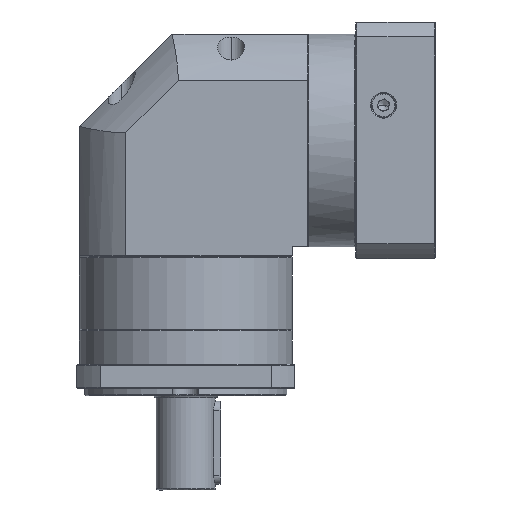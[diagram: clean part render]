
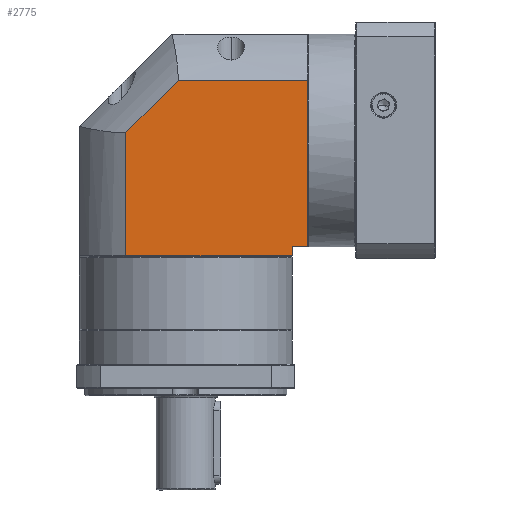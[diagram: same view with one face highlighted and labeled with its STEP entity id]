
A CAD part, front view. The second image highlights one B-rep face of the part: STEP entity #2775.
In plain terms, the highlighted planar face has unit normal (0, -1, 0).
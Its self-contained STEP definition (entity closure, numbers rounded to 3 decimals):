
#2775 = ADVANCED_FACE ( 'NONE', ( #9039 ), #27399, .F. ) ;
#3076 = EDGE_CURVE ( 'NONE', #114624, #77906, #111020, .T. ) ;
#6028 = DIRECTION ( 'NONE',  ( 0., 0., -1. ) ) ;
#6070 = ORIENTED_EDGE ( 'NONE', *, *, #41317, .F. ) ;
#9039 = FACE_OUTER_BOUND ( 'NONE', #28359, .T. ) ;
#12618 = DIRECTION ( 'NONE',  ( 0.707, 0., 0.707 ) ) ;
#13341 = ORIENTED_EDGE ( 'NONE', *, *, #3076, .F. ) ;
#16115 = CARTESIAN_POINT ( 'NONE',  ( 85.413, 1.133, -60.127 ) ) ;
#16437 = VERTEX_POINT ( 'NONE', #38316 ) ;
#18762 = LINE ( 'NONE', #104324, #39780 ) ;
#20772 = LINE ( 'NONE', #37599, #134255 ) ;
#23882 = EDGE_CURVE ( 'NONE', #68728, #112901, #33133, .T. ) ;
#24888 = VECTOR ( 'NONE', #6028, 1000. ) ;
#26370 = VERTEX_POINT ( 'NONE', #57671 ) ;
#27399 = PLANE ( 'NONE',  #114768 ) ;
#27847 = CARTESIAN_POINT ( 'NONE',  ( -29.587, 1.133, -71.627 ) ) ;
#28359 = EDGE_LOOP ( 'NONE', ( #91773, #30259, #6070, #64517, #113718, #13341, #75651 ) ) ;
#28366 = VECTOR ( 'NONE', #77517, 1000. ) ;
#30259 = ORIENTED_EDGE ( 'NONE', *, *, #104366, .F. ) ;
#33133 = LINE ( 'NONE', #58364, #71980 ) ;
#33200 = EDGE_CURVE ( 'NONE', #35423, #26370, #70321, .T. ) ;
#35423 = VERTEX_POINT ( 'NONE', #42018 ) ;
#37599 = CARTESIAN_POINT ( 'NONE',  ( -29.587, 1.133, -65.127 ) ) ;
#38316 = CARTESIAN_POINT ( 'NONE',  ( 93.813, 1.133, -60.127 ) ) ;
#39780 = VECTOR ( 'NONE', #42290, 1000. ) ;
#40551 = DIRECTION ( 'NONE',  ( 1., 0., 0. ) ) ;
#41317 = EDGE_CURVE ( 'NONE', #26370, #16437, #78302, .T. ) ;
#42018 = CARTESIAN_POINT ( 'NONE',  ( 23.851, 1.133, 29.773 ) ) ;
#42290 = DIRECTION ( 'NONE',  ( -1., 0., 0. ) ) ;
#45535 = CARTESIAN_POINT ( 'NONE',  ( 85.413, 1.133, -65.127 ) ) ;
#47748 = CARTESIAN_POINT ( 'NONE',  ( -4.487, 1.133, -65.127 ) ) ;
#57671 = CARTESIAN_POINT ( 'NONE',  ( 93.813, 1.133, 29.773 ) ) ;
#58364 = CARTESIAN_POINT ( 'NONE',  ( 85.413, 1.133, -71.627 ) ) ;
#64517 = ORIENTED_EDGE ( 'NONE', *, *, #33200, .F. ) ;
#68728 = VERTEX_POINT ( 'NONE', #16115 ) ;
#69525 = DIRECTION ( 'NONE',  ( 1., 0., 0. ) ) ;
#70321 = LINE ( 'NONE', #101659, #83260 ) ;
#71980 = VECTOR ( 'NONE', #88723, 1000. ) ;
#75651 = ORIENTED_EDGE ( 'NONE', *, *, #132908, .F. ) ;
#77517 = DIRECTION ( 'NONE',  ( 0., 0., 1. ) ) ;
#77906 = VERTEX_POINT ( 'NONE', #85611 ) ;
#78302 = LINE ( 'NONE', #129701, #24888 ) ;
#81276 = EDGE_CURVE ( 'NONE', #77906, #35423, #87259, .T. ) ;
#83260 = VECTOR ( 'NONE', #40551, 1000. ) ;
#83971 = VECTOR ( 'NONE', #12618, 1000. ) ;
#85611 = CARTESIAN_POINT ( 'NONE',  ( -4.487, 1.133, 1.435 ) ) ;
#87259 = LINE ( 'NONE', #95912, #83971 ) ;
#88723 = DIRECTION ( 'NONE',  ( 0., 0., -1. ) ) ;
#90776 = DIRECTION ( 'NONE',  ( 0., 1., 0. ) ) ;
#91773 = ORIENTED_EDGE ( 'NONE', *, *, #23882, .F. ) ;
#95912 = CARTESIAN_POINT ( 'NONE',  ( -4.487, 1.133, 1.435 ) ) ;
#101659 = CARTESIAN_POINT ( 'NONE',  ( -29.587, 1.133, 29.773 ) ) ;
#103844 = CARTESIAN_POINT ( 'NONE',  ( -4.487, 1.133, -71.627 ) ) ;
#104324 = CARTESIAN_POINT ( 'NONE',  ( -29.587, 1.133, -60.127 ) ) ;
#104366 = EDGE_CURVE ( 'NONE', #16437, #68728, #18762, .T. ) ;
#111020 = LINE ( 'NONE', #103844, #28366 ) ;
#112901 = VERTEX_POINT ( 'NONE', #45535 ) ;
#113718 = ORIENTED_EDGE ( 'NONE', *, *, #81276, .F. ) ;
#114624 = VERTEX_POINT ( 'NONE', #47748 ) ;
#114768 = AXIS2_PLACEMENT_3D ( 'NONE', #27847, #90776, #69525 ) ;
#129701 = CARTESIAN_POINT ( 'NONE',  ( 93.813, 1.133, -71.627 ) ) ;
#131835 = DIRECTION ( 'NONE',  ( -1., 0., 0. ) ) ;
#132908 = EDGE_CURVE ( 'NONE', #112901, #114624, #20772, .T. ) ;
#134255 = VECTOR ( 'NONE', #131835, 1000. ) ;
